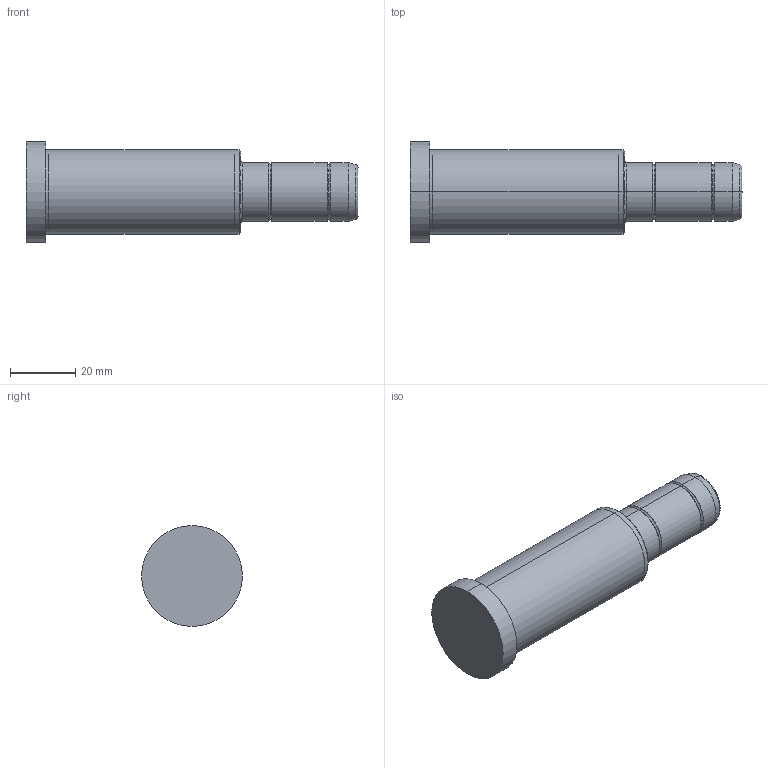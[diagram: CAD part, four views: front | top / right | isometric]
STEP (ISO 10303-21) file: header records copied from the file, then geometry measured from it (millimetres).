
FILE_DESCRIPTION( ( 'STEP AP203' ), '1' );
FILE_NAME( 'C:/Projects/D02 - 18x66x36.step', '2003-01-04T13:29:25', ( ' ' ), ( ' ' ), 'XStep 1.0', ' ', ' ' );
FILE_SCHEMA( ( 'CONFIG_CONTROL_DESIGN' ) );
Length unit declared in the file: metre
Products named in the file (1): 1
Bounding box: 102 x 31 x 31 mm (x, y, z)
Volume: 45469.6 mm3; surface area: 9000.5 mm2
Topology: 1 solids, 1 shells, 36 faces, 70 edges, 40 vertices
Faces by surface type: bspline 18, revolution 18
Entity records: 1127 total; most frequent: CARTESIAN_POINT 417, ORIENTED_EDGE 140, DIRECTION 118, EDGE_CURVE 70, AXIS2_PLACEMENT_3D 41, EDGE_LOOP 40, VERTEX_POINT 40, CIRCLE 40
